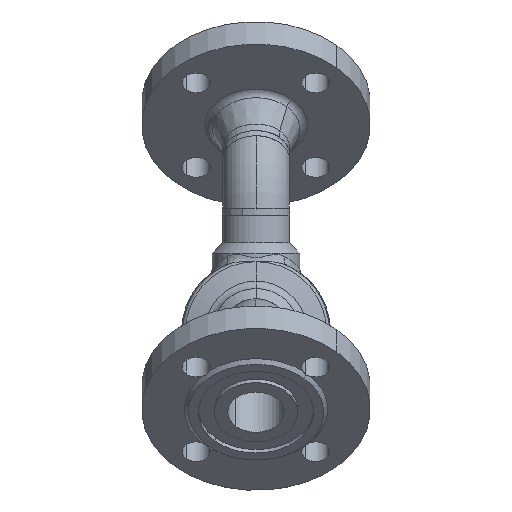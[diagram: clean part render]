
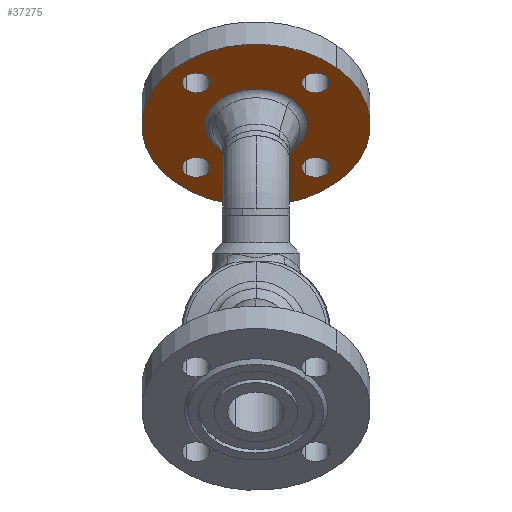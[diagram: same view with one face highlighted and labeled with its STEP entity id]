
A CAD part, front view. The second image highlights one B-rep face of the part: STEP entity #37275.
In plain terms, the highlighted planar face has unit normal (0, -0.707, -0.707) as drawn and (0, 1, 0) by its records, which use the part's own axes.
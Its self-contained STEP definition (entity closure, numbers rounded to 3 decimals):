
#153 = ORIENTED_EDGE ( 'NONE', *, *, #20661, .F. ) ;
#755 = EDGE_LOOP ( 'NONE', ( #31799, #15727 ) ) ;
#1203 = EDGE_CURVE ( 'NONE', #9426, #7704, #25375, .T. ) ;
#17714 = CARTESIAN_POINT ( 'NONE',  ( -25.748, 18., 0. ) ) ;
#34248 = VERTEX_POINT ( 'NONE', #38700 ) ;
#1951 = ORIENTED_EDGE ( 'NONE', *, *, #23410, .F. ) ;
#2058 = VERTEX_POINT ( 'NONE', #26168 ) ;
#2090 = CARTESIAN_POINT ( 'NONE',  ( 25.748, 18., 0. ) ) ;
#2133 = FACE_BOUND ( 'NONE', #36716, .T. ) ;
#2134 = FACE_BOUND ( 'NONE', #15676, .T. ) ;
#2135 = FACE_BOUND ( 'NONE', #12038, .T. ) ;
#2136 = FACE_BOUND ( 'NONE', #755, .T. ) ;
#2137 = FACE_BOUND ( 'NONE', #46237, .T. ) ;
#2138 = FACE_OUTER_BOUND ( 'NONE', #36973, .T. ) ;
#2139 = PLANE ( 'NONE',  #2140 ) ;
#2140 = AXIS2_PLACEMENT_3D ( 'NONE', #2141, #2142, #2175 ) ;
#2141 = CARTESIAN_POINT ( 'NONE',  ( 57.5, 18., 0. ) ) ;
#2142 = DIRECTION ( 'NONE',  ( 0., -1., 0. ) ) ;
#2175 = DIRECTION ( 'NONE',  ( 1., 0., 0. ) ) ;
#18570 = CIRCLE ( 'NONE', #18571, 7. ) ;
#18571 = AXIS2_PLACEMENT_3D ( 'NONE', #18572, #18573, #18574 ) ;
#18572 = CARTESIAN_POINT ( 'NONE',  ( -42.5, 18., 0. ) ) ;
#18573 = DIRECTION ( 'NONE',  ( 0., 1., 0. ) ) ;
#18574 = DIRECTION ( 'NONE',  ( 1., 0., 0. ) ) ;
#2210 = EDGE_CURVE ( 'NONE', #34248, #12590, #26377, .T. ) ;
#18631 = CARTESIAN_POINT ( 'NONE',  ( -57.5, 18., 0. ) ) ;
#19040 = CARTESIAN_POINT ( 'NONE',  ( -7., 18., 42.5 ) ) ;
#35510 = VERTEX_POINT ( 'NONE', #39973 ) ;
#19353 = EDGE_CURVE ( 'NONE', #2058, #14865, #18570, .T. ) ;
#19429 = CIRCLE ( 'NONE', #19430, 7. ) ;
#19430 = AXIS2_PLACEMENT_3D ( 'NONE', #19431, #19432, #19433 ) ;
#19431 = CARTESIAN_POINT ( 'NONE',  ( 0., 18., 42.5 ) ) ;
#19432 = DIRECTION ( 'NONE',  ( 0., 1., 0. ) ) ;
#19433 = DIRECTION ( 'NONE',  ( 0., 0., -1. ) ) ;
#3086 = CARTESIAN_POINT ( 'NONE',  ( -35.5, 18., 0. ) ) ;
#19504 = ORIENTED_EDGE ( 'NONE', *, *, #16127, .T. ) ;
#36185 = CIRCLE ( 'NONE', #36186, 7. ) ;
#36186 = AXIS2_PLACEMENT_3D ( 'NONE', #36187, #36188, #36189 ) ;
#36187 = CARTESIAN_POINT ( 'NONE',  ( 42.5, 18., 0. ) ) ;
#36188 = DIRECTION ( 'NONE',  ( 0., 1., 0. ) ) ;
#36189 = DIRECTION ( 'NONE',  ( -1., 0., 0. ) ) ;
#19810 = ORIENTED_EDGE ( 'NONE', *, *, #19353, .F. ) ;
#36387 = CIRCLE ( 'NONE', #36388, 25.748 ) ;
#36388 = AXIS2_PLACEMENT_3D ( 'NONE', #36389, #36390, #36391 ) ;
#36389 = CARTESIAN_POINT ( 'NONE',  ( 0., 18., 0. ) ) ;
#36390 = DIRECTION ( 'NONE',  ( 0., 1., 0. ) ) ;
#36391 = DIRECTION ( 'NONE',  ( -1., 0., 0. ) ) ;
#36589 = CARTESIAN_POINT ( 'NONE',  ( -7., 18., -42.5 ) ) ;
#36716 = EDGE_LOOP ( 'NONE', ( #21931, #24504 ) ) ;
#36973 = EDGE_LOOP ( 'NONE', ( #27077, #19504 ) ) ;
#20661 = EDGE_CURVE ( 'NONE', #37223, #42362, #30035, .T. ) ;
#4403 = CIRCLE ( 'NONE', #4404, 7. ) ;
#4404 = AXIS2_PLACEMENT_3D ( 'NONE', #4405, #4406, #4407 ) ;
#4405 = CARTESIAN_POINT ( 'NONE',  ( 0., 18., 42.5 ) ) ;
#4406 = DIRECTION ( 'NONE',  ( 0., 1., 0. ) ) ;
#4407 = DIRECTION ( 'NONE',  ( 0., 0., -1. ) ) ;
#37223 = VERTEX_POINT ( 'NONE', #2090 ) ;
#37275 = ADVANCED_FACE ( 'NONE', ( #2133, #2134, #2135, #2136, #2137, #2138 ), #2139, .F. ) ;
#37694 = CARTESIAN_POINT ( 'NONE',  ( 7., 18., -42.5 ) ) ;
#21931 = ORIENTED_EDGE ( 'NONE', *, *, #40651, .F. ) ;
#38700 = CARTESIAN_POINT ( 'NONE',  ( 49.5, 18., 0. ) ) ;
#38743 = CIRCLE ( 'NONE', #38744, 57.5 ) ;
#38744 = AXIS2_PLACEMENT_3D ( 'NONE', #38745, #38746, #38747 ) ;
#38745 = CARTESIAN_POINT ( 'NONE',  ( 0., 18., 0. ) ) ;
#38746 = DIRECTION ( 'NONE',  ( 0., 1., 0. ) ) ;
#38747 = DIRECTION ( 'NONE',  ( -1., 0., 0. ) ) ;
#23099 = VERTEX_POINT ( 'NONE', #39929 ) ;
#23301 = ORIENTED_EDGE ( 'NONE', *, *, #31293, .F. ) ;
#23410 = EDGE_CURVE ( 'NONE', #14865, #2058, #40633, .T. ) ;
#39929 = CARTESIAN_POINT ( 'NONE',  ( 57.5, 18., 0. ) ) ;
#39973 = CARTESIAN_POINT ( 'NONE',  ( 7., 18., 42.5 ) ) ;
#7704 = VERTEX_POINT ( 'NONE', #36589 ) ;
#40633 = CIRCLE ( 'NONE', #40634, 7. ) ;
#40634 = AXIS2_PLACEMENT_3D ( 'NONE', #40670, #40671, #40672 ) ;
#40651 = EDGE_CURVE ( 'NONE', #7704, #9426, #15699, .T. ) ;
#40670 = CARTESIAN_POINT ( 'NONE',  ( -42.5, 18., 0. ) ) ;
#40671 = DIRECTION ( 'NONE',  ( 0., 1., 0. ) ) ;
#40672 = DIRECTION ( 'NONE',  ( 1., 0., 0. ) ) ;
#24504 = ORIENTED_EDGE ( 'NONE', *, *, #1203, .F. ) ;
#25375 = CIRCLE ( 'NONE', #25376, 7. ) ;
#25376 = AXIS2_PLACEMENT_3D ( 'NONE', #25377, #25378, #25379 ) ;
#25377 = CARTESIAN_POINT ( 'NONE',  ( 0., 18., -42.5 ) ) ;
#25378 = DIRECTION ( 'NONE',  ( 0., 1., 0. ) ) ;
#25379 = DIRECTION ( 'NONE',  ( 0., 0., 1. ) ) ;
#9426 = VERTEX_POINT ( 'NONE', #37694 ) ;
#42362 = VERTEX_POINT ( 'NONE', #17714 ) ;
#42432 = CARTESIAN_POINT ( 'NONE',  ( 35.5, 18., 0. ) ) ;
#26168 = CARTESIAN_POINT ( 'NONE',  ( -49.5, 18., 0. ) ) ;
#26377 = CIRCLE ( 'NONE', #26378, 7. ) ;
#26378 = AXIS2_PLACEMENT_3D ( 'NONE', #26379, #26380, #26381 ) ;
#26379 = CARTESIAN_POINT ( 'NONE',  ( 42.5, 18., 0. ) ) ;
#26380 = DIRECTION ( 'NONE',  ( 0., 1., 0. ) ) ;
#26381 = DIRECTION ( 'NONE',  ( -1., 0., 0. ) ) ;
#43217 = VERTEX_POINT ( 'NONE', #18631 ) ;
#27077 = ORIENTED_EDGE ( 'NONE', *, *, #27186, .T. ) ;
#27186 = EDGE_CURVE ( 'NONE', #43217, #23099, #38743, .T. ) ;
#43720 = VERTEX_POINT ( 'NONE', #19040 ) ;
#44073 = EDGE_CURVE ( 'NONE', #35510, #43720, #19429, .T. ) ;
#12038 = EDGE_LOOP ( 'NONE', ( #15778, #46491 ) ) ;
#12590 = VERTEX_POINT ( 'NONE', #42432 ) ;
#46237 = EDGE_LOOP ( 'NONE', ( #23301, #153 ) ) ;
#30035 = CIRCLE ( 'NONE', #30036, 25.748 ) ;
#30036 = AXIS2_PLACEMENT_3D ( 'NONE', #30037, #30038, #30039 ) ;
#30037 = CARTESIAN_POINT ( 'NONE',  ( 0., 18., 0. ) ) ;
#30038 = DIRECTION ( 'NONE',  ( 0., 1., 0. ) ) ;
#30039 = DIRECTION ( 'NONE',  ( -1., 0., 0. ) ) ;
#46491 = ORIENTED_EDGE ( 'NONE', *, *, #44073, .F. ) ;
#30890 = EDGE_CURVE ( 'NONE', #12590, #34248, #36185, .T. ) ;
#14865 = VERTEX_POINT ( 'NONE', #3086 ) ;
#31293 = EDGE_CURVE ( 'NONE', #42362, #37223, #36387, .T. ) ;
#14994 = CIRCLE ( 'NONE', #14995, 57.5 ) ;
#14995 = AXIS2_PLACEMENT_3D ( 'NONE', #14996, #14997, #14998 ) ;
#14996 = CARTESIAN_POINT ( 'NONE',  ( 0., 18., 0. ) ) ;
#14997 = DIRECTION ( 'NONE',  ( 0., 1., 0. ) ) ;
#14998 = DIRECTION ( 'NONE',  ( -1., 0., 0. ) ) ;
#15424 = EDGE_CURVE ( 'NONE', #43720, #35510, #4403, .T. ) ;
#31799 = ORIENTED_EDGE ( 'NONE', *, *, #30890, .F. ) ;
#15676 = EDGE_LOOP ( 'NONE', ( #19810, #1951 ) ) ;
#15699 = CIRCLE ( 'NONE', #15700, 7. ) ;
#15700 = AXIS2_PLACEMENT_3D ( 'NONE', #15701, #15702, #15703 ) ;
#15701 = CARTESIAN_POINT ( 'NONE',  ( 0., 18., -42.5 ) ) ;
#15702 = DIRECTION ( 'NONE',  ( 0., 1., 0. ) ) ;
#15703 = DIRECTION ( 'NONE',  ( 0., 0., 1. ) ) ;
#15727 = ORIENTED_EDGE ( 'NONE', *, *, #2210, .F. ) ;
#15778 = ORIENTED_EDGE ( 'NONE', *, *, #15424, .F. ) ;
#16127 = EDGE_CURVE ( 'NONE', #23099, #43217, #14994, .T. ) ;
